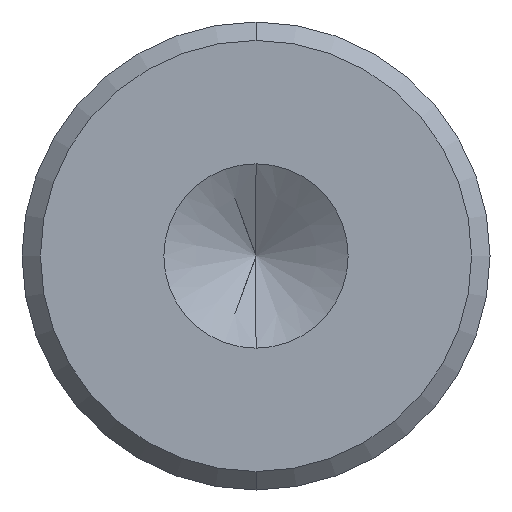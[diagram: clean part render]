
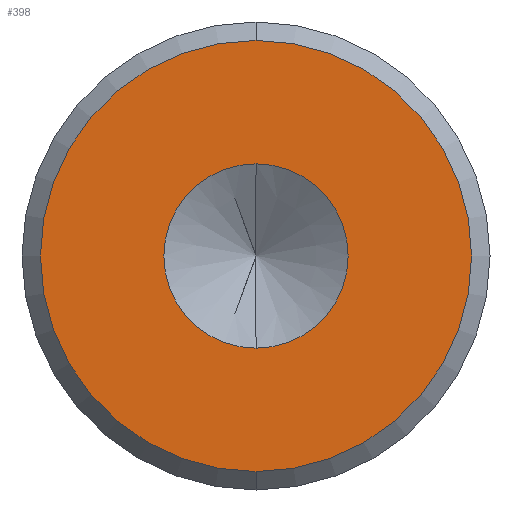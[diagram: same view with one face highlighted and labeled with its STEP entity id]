
A CAD part, front view. The second image highlights one B-rep face of the part: STEP entity #398.
In plain terms, the highlighted planar face has unit normal (0, -1, 0).
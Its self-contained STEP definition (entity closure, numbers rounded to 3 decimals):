
#17 = FACE_BOUND ( 'NONE', #161, .T. ) ;
#20 = CARTESIAN_POINT ( 'NONE',  ( 0., 0., 0. ) ) ;
#28 = ORIENTED_EDGE ( 'NONE', *, *, #63, .T. ) ;
#29 = AXIS2_PLACEMENT_3D ( 'NONE', #20, #98, #95 ) ;
#41 = CARTESIAN_POINT ( 'NONE',  ( 0., 0., -2.5 ) ) ;
#51 = DIRECTION ( 'NONE',  ( 0., 0., 1. ) ) ;
#55 = DIRECTION ( 'NONE',  ( 0., 0., -1. ) ) ;
#63 = EDGE_CURVE ( 'NONE', #126, #153, #167, .T. ) ;
#82 = AXIS2_PLACEMENT_3D ( 'NONE', #394, #472, #302 ) ;
#95 = DIRECTION ( 'NONE',  ( 0., 0., 1. ) ) ;
#98 = DIRECTION ( 'NONE',  ( 0., 1., 0. ) ) ;
#104 = CARTESIAN_POINT ( 'NONE',  ( 0., 0., 5.85 ) ) ;
#126 = VERTEX_POINT ( 'NONE', #104 ) ;
#133 = CIRCLE ( 'NONE', #454, 2.5 ) ;
#153 = VERTEX_POINT ( 'NONE', #308 ) ;
#161 = EDGE_LOOP ( 'NONE', ( #491, #176 ) ) ;
#167 = CIRCLE ( 'NONE', #82, 5.85 ) ;
#171 = CARTESIAN_POINT ( 'NONE',  ( 0., 0., 0. ) ) ;
#173 = PLANE ( 'NONE',  #29 ) ;
#176 = ORIENTED_EDGE ( 'NONE', *, *, #333, .F. ) ;
#208 = CARTESIAN_POINT ( 'NONE',  ( 0., 0., 0. ) ) ;
#213 = CARTESIAN_POINT ( 'NONE',  ( 0., 0., 0. ) ) ;
#217 = CIRCLE ( 'NONE', #233, 2.5 ) ;
#222 = FACE_OUTER_BOUND ( 'NONE', #445, .T. ) ;
#228 = DIRECTION ( 'NONE',  ( 0., -1., 0. ) ) ;
#233 = AXIS2_PLACEMENT_3D ( 'NONE', #213, #425, #55 ) ;
#236 = VERTEX_POINT ( 'NONE', #41 ) ;
#237 = VERTEX_POINT ( 'NONE', #535 ) ;
#294 = DIRECTION ( 'NONE',  ( 0., 0., -1. ) ) ;
#302 = DIRECTION ( 'NONE',  ( 0., 0., 1. ) ) ;
#308 = CARTESIAN_POINT ( 'NONE',  ( 0., 0., -5.85 ) ) ;
#312 = AXIS2_PLACEMENT_3D ( 'NONE', #208, #228, #51 ) ;
#313 = ORIENTED_EDGE ( 'NONE', *, *, #527, .T. ) ;
#331 = CIRCLE ( 'NONE', #312, 5.85 ) ;
#333 = EDGE_CURVE ( 'NONE', #237, #236, #133, .T. ) ;
#378 = DIRECTION ( 'NONE',  ( 0., -1., 0. ) ) ;
#394 = CARTESIAN_POINT ( 'NONE',  ( 0., 0., 0. ) ) ;
#398 = ADVANCED_FACE ( 'NONE', ( #222, #17 ), #173, .F. ) ;
#425 = DIRECTION ( 'NONE',  ( 0., -1., 0. ) ) ;
#445 = EDGE_LOOP ( 'NONE', ( #28, #313 ) ) ;
#454 = AXIS2_PLACEMENT_3D ( 'NONE', #171, #378, #294 ) ;
#472 = DIRECTION ( 'NONE',  ( 0., -1., 0. ) ) ;
#491 = ORIENTED_EDGE ( 'NONE', *, *, #519, .F. ) ;
#519 = EDGE_CURVE ( 'NONE', #236, #237, #217, .T. ) ;
#527 = EDGE_CURVE ( 'NONE', #153, #126, #331, .T. ) ;
#535 = CARTESIAN_POINT ( 'NONE',  ( 0., 0., 2.5 ) ) ;
